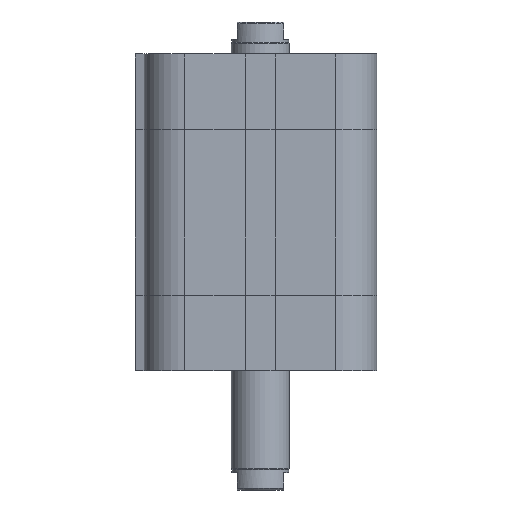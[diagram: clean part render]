
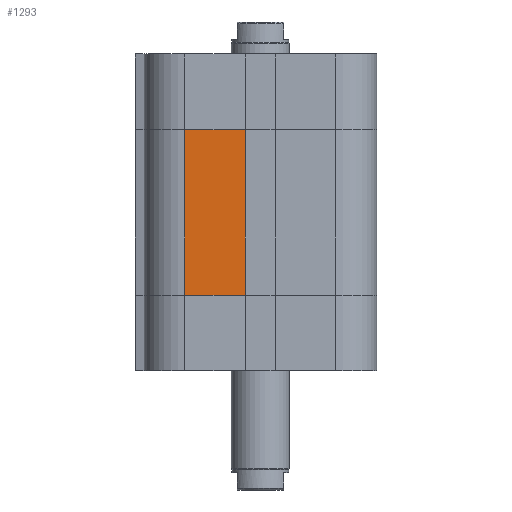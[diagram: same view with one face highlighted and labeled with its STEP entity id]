
A CAD part, left-side view. The second image highlights one B-rep face of the part: STEP entity #1293.
In plain terms, the highlighted planar face has unit normal (-1, 0, 0).
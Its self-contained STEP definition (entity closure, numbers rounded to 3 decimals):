
#1204=CARTESIAN_POINT('',(-20.,13.,13.));
#1205=VERTEX_POINT('',#1204);
#1213=CARTESIAN_POINT('',(-20.,13.,41.5));
#1214=VERTEX_POINT('',#1213);
#1215=CARTESIAN_POINT('',(-20.,13.,13.));
#1216=DIRECTION('',(0.0,0.0,1.0));
#1217=VECTOR('',#1216,28.5);
#1218=LINE('',#1215,#1217);
#1219=EDGE_CURVE('',#1205,#1214,#1218,.T.);
#1263=CARTESIAN_POINT('',(-20.0,2.6,0.0));
#1264=DIRECTION('',(-1.0,0.0,0.0));
#1265=DIRECTION('',(0.0,0.0,1.0));
#1266=AXIS2_PLACEMENT_3D('',#1263,#1264,#1265);
#1267=PLANE('',#1266);
#1268=CARTESIAN_POINT('',(-20.0,2.6,13.));
#1269=VERTEX_POINT('',#1268);
#1270=CARTESIAN_POINT('',(-20.,13.,13.));
#1271=DIRECTION('',(0.0,-1.0,0.0));
#1272=VECTOR('',#1271,10.4);
#1273=LINE('',#1270,#1272);
#1274=EDGE_CURVE('',#1205,#1269,#1273,.T.);
#1275=ORIENTED_EDGE('',*,*,#1274,.T.);
#1276=CARTESIAN_POINT('',(-20.0,2.6,41.5));
#1277=VERTEX_POINT('',#1276);
#1278=CARTESIAN_POINT('',(-20.0,2.6,13.));
#1279=DIRECTION('',(0.0,0.0,1.0));
#1280=VECTOR('',#1279,28.5);
#1281=LINE('',#1278,#1280);
#1282=EDGE_CURVE('',#1269,#1277,#1281,.T.);
#1283=ORIENTED_EDGE('',*,*,#1282,.T.);
#1284=CARTESIAN_POINT('',(-20.,13.,41.5));
#1285=DIRECTION('',(0.0,-1.0,0.0));
#1286=VECTOR('',#1285,10.4);
#1287=LINE('',#1284,#1286);
#1288=EDGE_CURVE('',#1214,#1277,#1287,.T.);
#1289=ORIENTED_EDGE('',*,*,#1288,.F.);
#1290=ORIENTED_EDGE('',*,*,#1219,.F.);
#1291=EDGE_LOOP('',(#1275,#1283,#1289,#1290));
#1292=FACE_OUTER_BOUND('',#1291,.T.);
#1293=ADVANCED_FACE('',(#1292),#1267,.T.);
